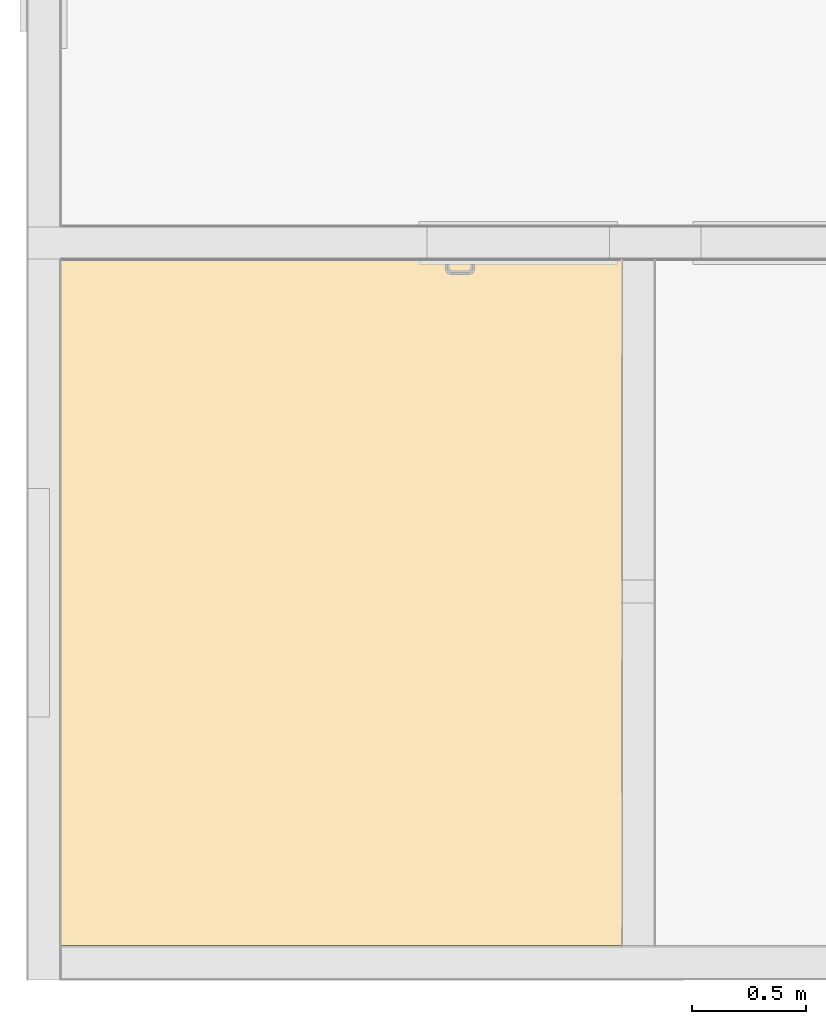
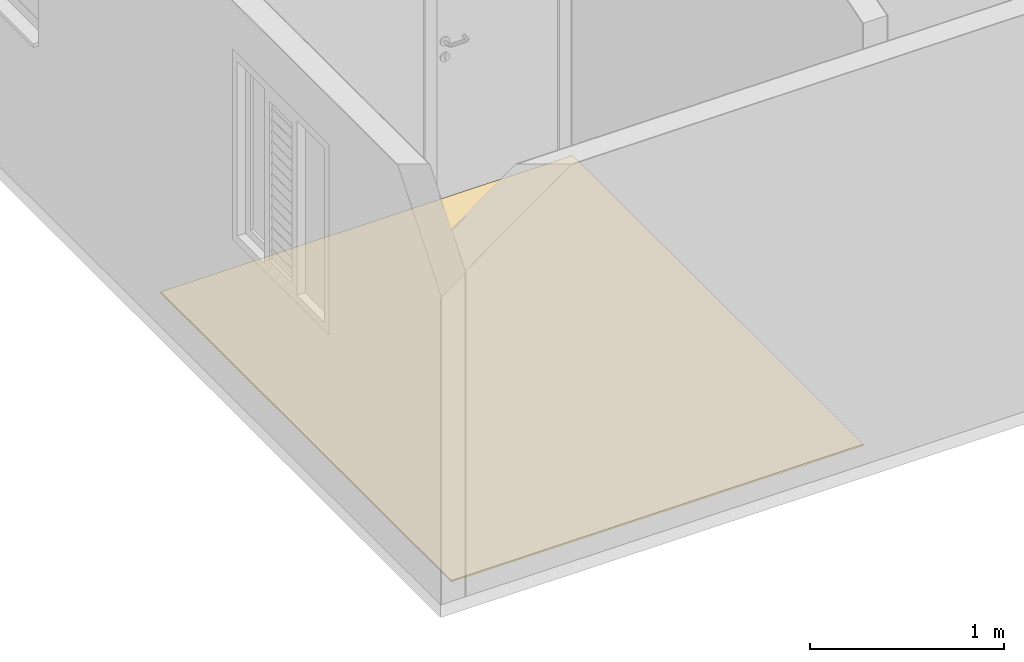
# One storey, part 3 of 8: 1 covering.
"""IFC2X3 building model written with IfcOpenShell, lengths in millimetres."""

from ifc_helpers import new_model, entity, si_unit, converted_unit, derived_unit, money_unit, direction, frame, origin_with_axes, place, context, subcontext, project, spatial, polyline, outline, extrude, material, type_object, element, save


model = new_model("IFC2X3")

# Units and contexts
model_context = context("Model", 3, precision=0.01, world=origin_with_axes(), true_north=direction((0.0, 1.0)))
body_context = subcontext(model_context, "Body", "Model", "MODEL_VIEW")
ifc_project = project(units=[si_unit("LENGTHUNIT", "METRE", prefix="MILLI"), si_unit("AREAUNIT", "SQUARE_METRE"), si_unit("VOLUMEUNIT", "CUBIC_METRE"), converted_unit("PLANEANGLEUNIT", "DEGREE", entity("IfcPlaneAngleMeasure", 0.0174532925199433), si_unit("PLANEANGLEUNIT", "RADIAN"), dimensions=[0, 0, 0, 0, 0, 0, 0]), money_unit("USD"), converted_unit("TIMEUNIT", "Year", entity("IfcTimeMeasure", 31557600.0), si_unit("TIMEUNIT", "SECOND"), dimensions=[0, 0, 1, 0, 0, 0, 0]), si_unit("MASSUNIT", "GRAM", prefix="KILO"), si_unit("THERMODYNAMICTEMPERATUREUNIT", "DEGREE_CELSIUS"), si_unit("LUMINOUSINTENSITYUNIT", "LUMEN"), si_unit("ENERGYUNIT", "JOULE", prefix="MEGA"), derived_unit("THERMALCONDUCTANCEUNIT", [(si_unit("POWERUNIT", "WATT"), 1), (si_unit("LENGTHUNIT", "METRE"), -1), (si_unit("THERMODYNAMICTEMPERATUREUNIT", "KELVIN"), -1)]), derived_unit("SPECIFICHEATCAPACITYUNIT", [(si_unit("ENERGYUNIT", "JOULE"), 1), (si_unit("MASSUNIT", "GRAM", prefix="KILO"), -1), (si_unit("THERMODYNAMICTEMPERATUREUNIT", "KELVIN"), -1)]), derived_unit("MASSDENSITYUNIT", [(si_unit("MASSUNIT", "GRAM", prefix="KILO"), 1), (si_unit("VOLUMEUNIT", "CUBIC_METRE"), -1)])], contexts=[model_context])

# Site, building, storey
site_placement = place(None, origin_with_axes())
site = spatial("IfcSite", under=ifc_project, at=site_placement, Name="Local", CompositionType="ELEMENT")
building_placement = place(site_placement, origin_with_axes())
building = spatial("IfcBuilding", under=site, at=building_placement, Name="Construção", CompositionType="ELEMENT")
storey_placement = place(building_placement, origin_with_axes())
storey = spatial("IfcBuildingStorey", under=building, at=storey_placement, Name="Pavimento Térreo", CompositionType="ELEMENT", Elevation=0.0)

# Covering
ifc_material = material(Name="Cerâmica")
covering_type = type_object("IfcCoveringType", Name="Cerâmica 10", PredefinedType="FLOORING")
covering_placement = place(storey_placement, frame((150.0, 3150.000011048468, 0.0), z_axis=(0.0, 0.0, 1.0), x_axis=(1.0, 0.0, 0.0)))
element("IfcCovering", 1, at=covering_placement, inside=storey, type_object=covering_type, material=ifc_material, Name="P01", PredefinedType="FLOORING", context=body_context, shape_type="SweptSolid", body=[
    extrude(outline(polyline([(0.0, 0.0), (0.0, -3000.000011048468), (2455.000009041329, -3000.000011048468), (2455.000098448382, 0.0), (0.0, 0.0)])), origin_with_axes(), (0.0, 0.0, 1.0), 10.0),
])

save(model, "model.ifc")
